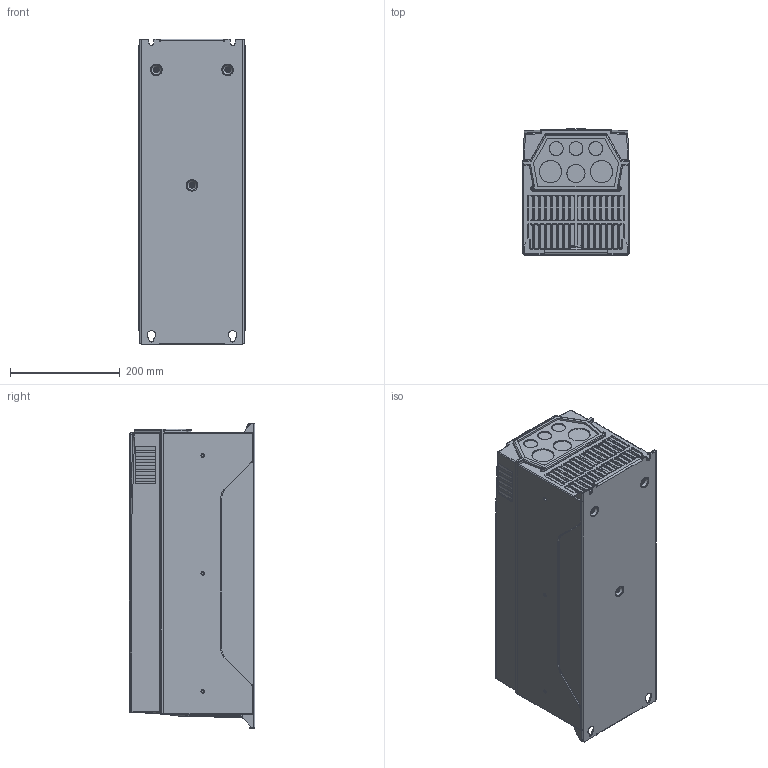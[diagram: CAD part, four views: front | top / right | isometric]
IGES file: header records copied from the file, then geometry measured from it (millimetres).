
Global section: file name: C:\temp\3D mechanics (extra.vacon)\Agileen\MR6\MR6_Simplified_Model_igs.igs; native system: NX V6.0; preprocessor: SIEMENS UGS NX 6.0; date: 20121212.091020; units: millimetre
Bounding box: 195 x 228.98 x 557 mm (x, y, z)
Surface area: 894129.7 mm2 (no closed solid volume)
Topology: 0 solids, 0 shells, 1799 faces, 10792 edges, 10642 vertices
Faces by surface type: bspline 1799
